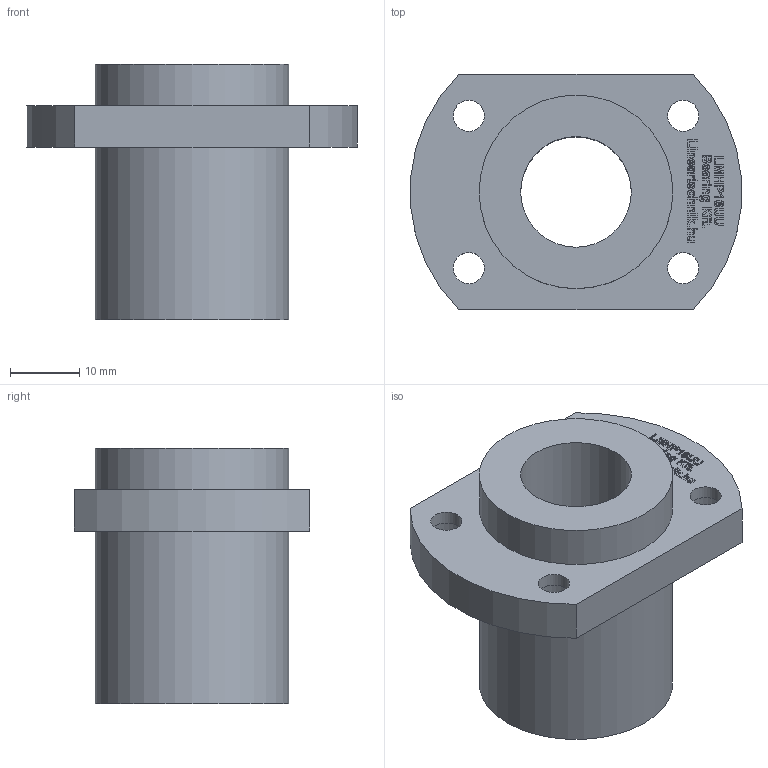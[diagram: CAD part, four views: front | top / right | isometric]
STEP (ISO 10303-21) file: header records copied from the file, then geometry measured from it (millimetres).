
FILE_DESCRIPTION(/* description */ (''),/* implementation_level */ '2;1');
FILE_NAME(/* name */ 'LMHP16UU',/* time_stamp */ '2019-07-09T13:43:01+02:00',/* author */ ('VĂ©gh MĂˇtĂ©'),/* organization */ ('Bearing Kft'),/* preprocessor_version */ 'ST-DEVELOPER v16.7',/* originating_system */ 'DEX',/* authorisation */ $);
FILE_SCHEMA (('AUTOMOTIVE_DESIGN {1 0 10303 214 3 1 1}'));
Length unit declared in the file: millimetre
Products named in the file (1): LMHP16UU
Bounding box: 47.82 x 34 x 37 mm (x, y, z)
Volume: 19698.2 mm3; surface area: 8395.5 mm2
Topology: 1 solids, 1 shells, 333 faces, 835 edges, 558 vertices
Faces by surface type: plane 256, bspline 61, cylinder 16
Full cylindrical faces by diameter (mm): 4.5 x4, 7.5 x4, 16 x1, 28 x2
Entity records: 12642 total; most frequent: CARTESIAN_POINT 5053, ORIENTED_EDGE 1636, DIRECTION 1274, EDGE_CURVE 818, LINE 664, VECTOR 664, VERTEX_POINT 554, EDGE_LOOP 410
